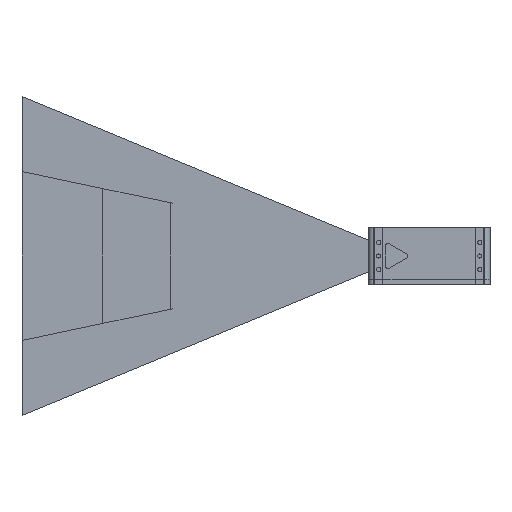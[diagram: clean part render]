
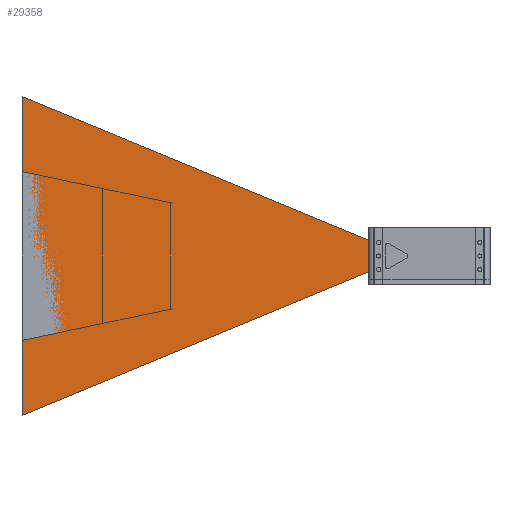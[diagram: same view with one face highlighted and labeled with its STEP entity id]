
A CAD part, left-side view. The second image highlights one B-rep face of the part: STEP entity #29358.
In plain terms, the highlighted planar face has unit normal (-1, 0, 0) as drawn and (-0.242, 0.97, 0) by its records, which use the part's own axes.
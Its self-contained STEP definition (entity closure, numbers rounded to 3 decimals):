
#4092=LINE('',#86253,#6251);
#4093=LINE('',#86255,#6252);
#4094=LINE('',#86257,#6253);
#4095=LINE('',#86258,#6254);
#6251=VECTOR('',#40688,10.);
#6252=VECTOR('',#40689,10.);
#6253=VECTOR('',#40690,10.);
#6254=VECTOR('',#40691,10.);
#8530=FACE_OUTER_BOUND('',#10537,.T.);
#10537=EDGE_LOOP('',(#26893,#26894,#26895,#26896));
#14615=VERTEX_POINT('',#86251);
#14616=VERTEX_POINT('',#86252);
#14617=VERTEX_POINT('',#86254);
#14618=VERTEX_POINT('',#86256);
#18709=EDGE_CURVE('',#14615,#14616,#4092,.T.);
#18710=EDGE_CURVE('',#14616,#14617,#4093,.T.);
#18711=EDGE_CURVE('',#14617,#14618,#4094,.T.);
#18712=EDGE_CURVE('',#14618,#14615,#4095,.T.);
#26893=ORIENTED_EDGE('',*,*,#18709,.T.);
#26894=ORIENTED_EDGE('',*,*,#18710,.T.);
#26895=ORIENTED_EDGE('',*,*,#18711,.T.);
#26896=ORIENTED_EDGE('',*,*,#18712,.T.);
#27660=PLANE('',#32636);
#29358=ADVANCED_FACE('',(#8530),#27660,.T.);
#32636=AXIS2_PLACEMENT_3D('',#86250,#40686,#40687);
#40686=DIRECTION('center_axis',(-0.242,0.97,0.));
#40687=DIRECTION('ref_axis',(0.,0.,1.));
#40688=DIRECTION('',(0.,0.,-1.));
#40689=DIRECTION('',(-0.896,-0.224,-0.383));
#40690=DIRECTION('',(0.,0.,1.));
#40691=DIRECTION('',(0.896,0.224,-0.383));
#86250=CARTESIAN_POINT('Origin',(-182.503,8.676,0.));
#86251=CARTESIAN_POINT('',(-23.241,48.384,10.5));
#86252=CARTESIAN_POINT('',(-23.241,48.384,-10.5));
#86253=CARTESIAN_POINT('',(-23.241,48.384,10.5));
#86254=CARTESIAN_POINT('',(-275.518,-14.515,-118.196));
#86255=CARTESIAN_POINT('',(-23.241,48.384,-10.5));
#86256=CARTESIAN_POINT('',(-275.518,-14.515,118.196));
#86257=CARTESIAN_POINT('',(-275.518,-14.515,-118.196));
#86258=CARTESIAN_POINT('',(-275.518,-14.515,118.196));
